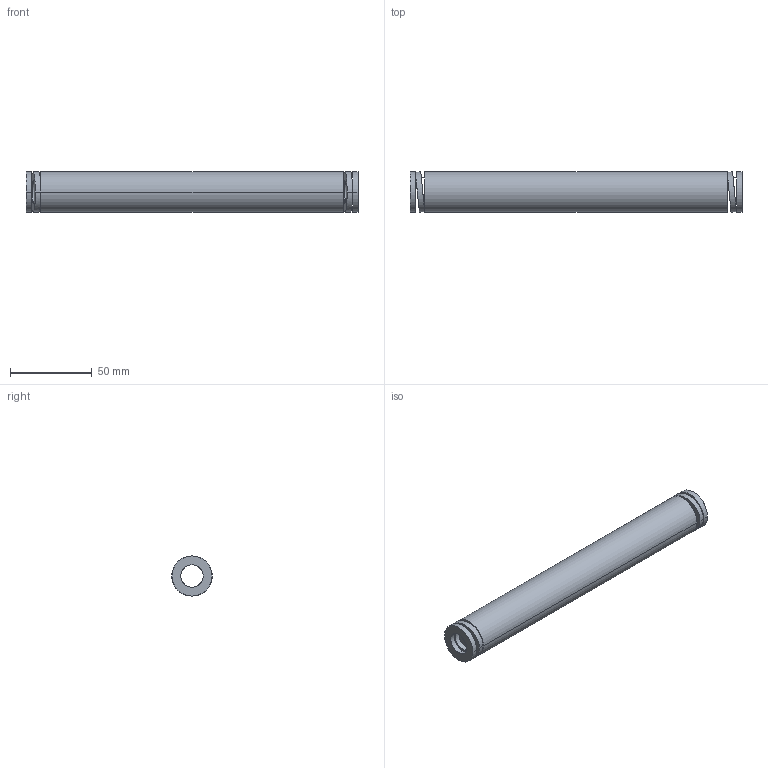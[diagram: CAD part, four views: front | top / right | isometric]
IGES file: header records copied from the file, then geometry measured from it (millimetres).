
Start section: START RECORD GO HERE.
Global section: file name: 392-B25-203.igs; native system: DASSAULT SYSTEMES CATIA V5 R20 - www.3ds.com; preprocessor: CATIA Version 5 Release 20 ; author: Utente; organization: NB04-ASUS; date: 20210813.094114; units: millimetre
Bounding box: 203 x 24.7 x 24.5 mm (x, y, z)
Surface area: 27009 mm2 (no closed solid volume)
Topology: 0 solids, 0 shells, 38 faces, 184 edges, 184 vertices
Faces by surface type: revolution 28, plane 10
